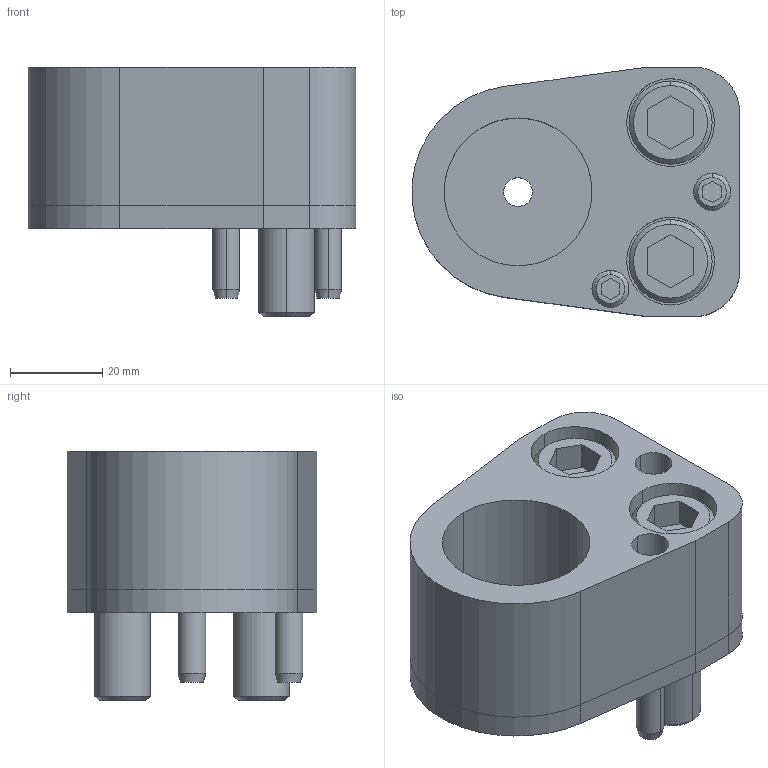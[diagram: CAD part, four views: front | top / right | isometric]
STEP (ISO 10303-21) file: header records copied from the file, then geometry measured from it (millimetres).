
FILE_DESCRIPTION(/* description */ (''),/* implementation_level */ '2;1');
FILE_NAME(/* name */ '3d_dp-ap32_02807_r00.stp',/* time_stamp */ '2011-01-10T14:15:57+09:00',/* author */ ('MISUMI'),/* organization */ (''),/* preprocessor_version */ 'ST-DEVELOPER v11',/* originating_system */ 'UGS - NX 5.0',/* authorisation */ '');
FILE_SCHEMA (('CONFIG_CONTROL_DESIGN'));
Length unit declared in the file: millimetre
Products named in the file (1): 3d_dp-ap32_02807_r00
Bounding box: 70.92 x 54 x 54 mm (x, y, z)
Volume: 89016.1 mm3; surface area: 33428.2 mm2
Topology: 8 solids, 8 shells, 155 faces, 346 edges, 222 vertices
Faces by surface type: plane 67, cylinder 62, cone 26
Entity records: 4480 total; most frequent: DIRECTION 804, CARTESIAN_POINT 778, ORIENTED_EDGE 692, EDGE_CURVE 346, AXIS2_PLACEMENT_3D 306, VERTEX_POINT 222, LINE 192, VECTOR 192
